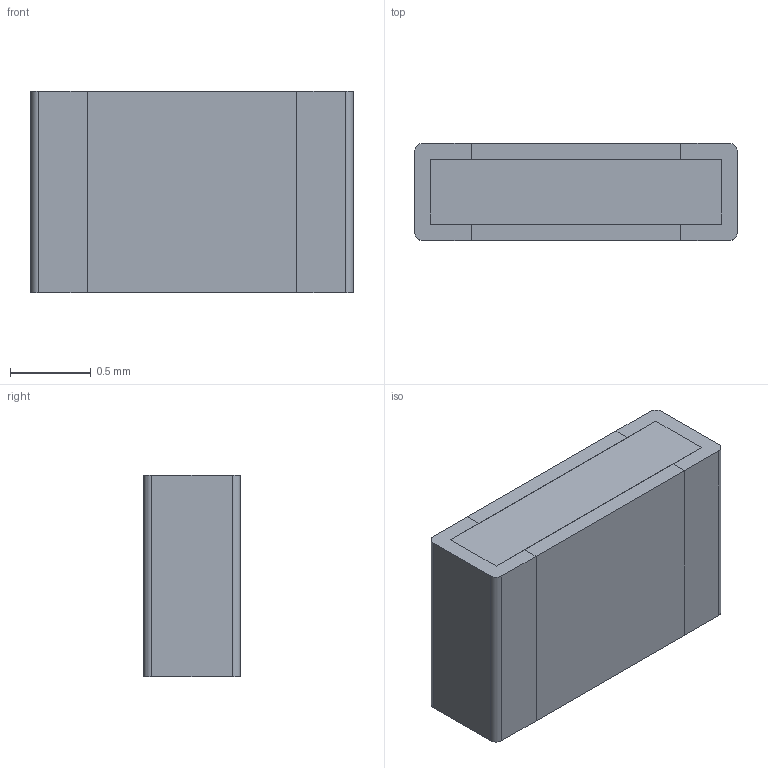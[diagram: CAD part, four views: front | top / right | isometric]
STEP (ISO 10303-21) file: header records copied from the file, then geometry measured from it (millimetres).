
FILE_DESCRIPTION (( 'STEP AP214' ), '1' );
FILE_NAME ( 'RESC2012X60.STEP', '2013-08-13T09:44:50', ( '' ), ( '' ), 'FPX Expert 2013', 'PCB Libraries', '' );
FILE_SCHEMA (( 'AUTOMOTIVE_DESIGN' ));
Length unit declared in the file: millimetre
Products named in the file (1): RESC2012X60
Bounding box: 2 x 0.6 x 1.25 mm (x, y, z)
Volume: 1.5 mm3; surface area: 20.8 mm2
Topology: 5 solids, 5 shells, 42 faces, 96 edges, 64 vertices
Faces by surface type: plane 38, cylinder 4
Entity records: 1351 total; most frequent: CARTESIAN_POINT 203, ORIENTED_EDGE 192, DIRECTION 190, EDGE_CURVE 96, VECTOR 88, LINE 88, VERTEX_POINT 64, AXIS2_PLACEMENT_3D 51
